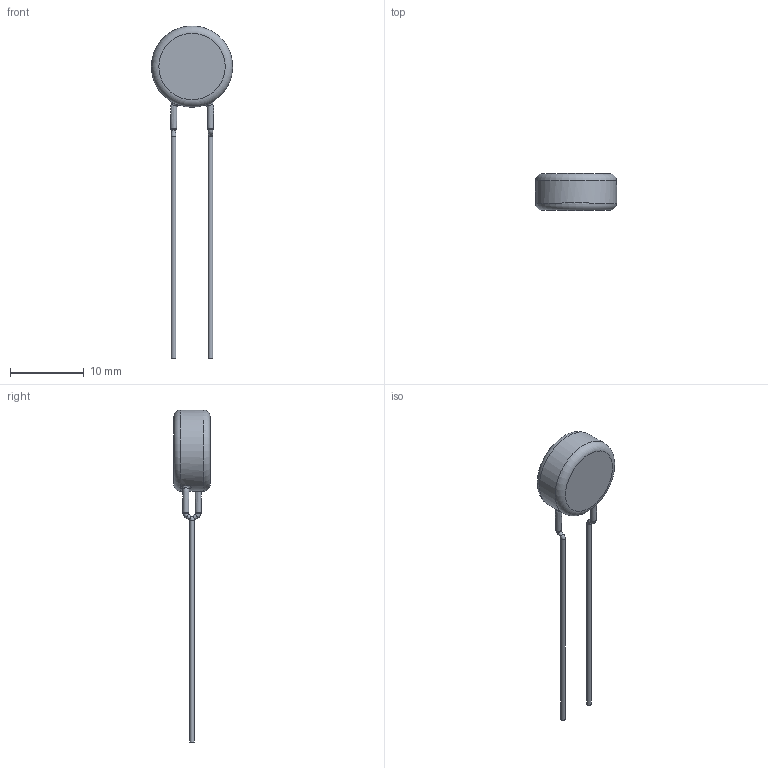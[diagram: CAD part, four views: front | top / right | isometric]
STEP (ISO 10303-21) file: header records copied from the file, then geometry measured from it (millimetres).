
FILE_DESCRIPTION(/* description */ (''),/* implementation_level */ '2;1');
FILE_NAME(/* name */ 'I:\Marketing\M6t1\3D-Models\Zchng-Werk-3\Upload for homepage\BCC\AY2\Inline Dia 0,6 LS 5\AY2332K41Y5US63V5.stp',/* time_stamp */ '2020-11-06T08:57:40+01:00',/* author */ ('truediger'),/* organization */ (''),/* preprocessor_version */ 'ST-DEVELOPER v18',/* originating_system */ 'Autodesk Inventor 2020',/* authorisation */ '');
FILE_SCHEMA (('AUTOMOTIVE_DESIGN { 1 0 10303 214 3 1 1 }'));
Length unit declared in the file: millimetre
Products named in the file (1): Bauteil1
Bounding box: 10.99 x 5 x 45 mm (x, y, z)
Volume: 482.7 mm3; surface area: 468.5 mm2
Topology: 1 solids, 1 shells, 29 faces, 81 edges, 56 vertices
Faces by surface type: cylinder 9, bspline 8, torus 6, plane 6
Full cylindrical faces by diameter (mm): 0.6 x4, 11 x1
Entity records: 2595 total; most frequent: CARTESIAN_POINT 1814, ORIENTED_EDGE 162, DIRECTION 141, EDGE_CURVE 81, AXIS2_PLACEMENT_3D 68, VERTEX_POINT 56, CIRCLE 44, EDGE_LOOP 31
